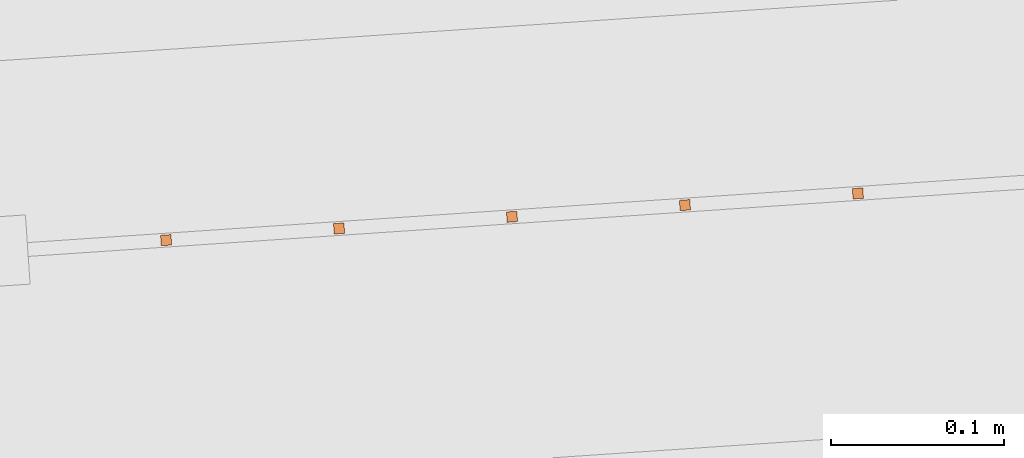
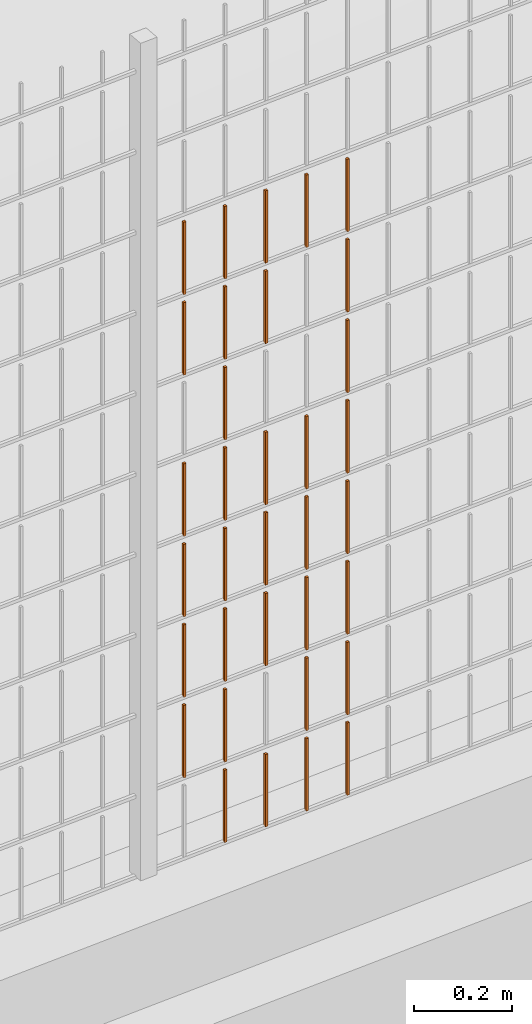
# One storey, part 216 of 1809: 34 proxies, 1 element without a shape of its own.
"""IFC2X3 building model written with IfcOpenShell, lengths in millimetres."""

from ifc_helpers import new_model, entity, si_unit, converted_unit, derived_unit, money_unit, direction, frame, origin_with_axes, place, context, subcontext, project, spatial, faceted_brep, source, transform, mapped, material, type_object, element, aggregate, save


model = new_model("IFC2X3")

# Units and contexts
model_context = context("Model", 3, precision=0.01, world=origin_with_axes(), true_north=direction((0.0, 1.0)))
body_context = subcontext(model_context, "Body", "Model", "MODEL_VIEW")
ifc_project = project(units=[si_unit("LENGTHUNIT", "METRE", prefix="MILLI"), si_unit("AREAUNIT", "SQUARE_METRE"), si_unit("VOLUMEUNIT", "CUBIC_METRE"), converted_unit("PLANEANGLEUNIT", "DEGREE", entity("IfcPlaneAngleMeasure", 0.0174532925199), si_unit("PLANEANGLEUNIT", "RADIAN"), dimensions=[0, 0, 0, 0, 0, 0, 0]), si_unit("SOLIDANGLEUNIT", "STERADIAN"), money_unit("EUR"), converted_unit("TIMEUNIT", "Year", entity("IfcTimeMeasure", 31556926.0), si_unit("TIMEUNIT", "SECOND"), dimensions=[0, 0, 1, 0, 0, 0, 0]), si_unit("MASSUNIT", "GRAM", prefix="KILO"), si_unit("THERMODYNAMICTEMPERATUREUNIT", "DEGREE_CELSIUS"), si_unit("LUMINOUSINTENSITYUNIT", "LUMEN"), si_unit("ENERGYUNIT", "JOULE", prefix="MEGA"), derived_unit("THERMALCONDUCTANCEUNIT", [(si_unit("POWERUNIT", "WATT"), 1), (si_unit("LENGTHUNIT", "METRE"), -1), (si_unit("THERMODYNAMICTEMPERATUREUNIT", "KELVIN"), -1)]), derived_unit("SPECIFICHEATCAPACITYUNIT", [(si_unit("ENERGYUNIT", "JOULE"), 1), (si_unit("MASSUNIT", "GRAM", prefix="KILO"), -1), (si_unit("THERMODYNAMICTEMPERATUREUNIT", "KELVIN"), -1)]), derived_unit("MASSDENSITYUNIT", [(si_unit("MASSUNIT", "GRAM", prefix="KILO"), 1), (si_unit("VOLUMEUNIT", "CUBIC_METRE"), -1)])], contexts=[model_context])

# Site, building, storey
site_placement = place(None, origin_with_axes())
site = spatial("IfcSite", under=ifc_project, at=site_placement, Name="Politse- ja Piirivalveameti ning Päästeameti ühishoone", CompositionType="ELEMENT")
building_placement = place(site_placement, origin_with_axes())
building = spatial("IfcBuilding", under=site, at=building_placement, Name="Politse- ja Piirivalveameti ning Päästeameti ühishoone", CompositionType="ELEMENT")
storey_placement = place(building_placement, origin_with_axes())
storey = spatial("IfcBuildingStorey", under=building, at=storey_placement, Name="Esimene korrus", CompositionType="ELEMENT", Elevation=0.0)

# Proxies
building_element_proxy_type_1 = type_object("IfcBuildingElementProxyType", Name="Railing Type", PredefinedType="NOTDEFINED")
proxy_1_placement = place(storey_placement, frame((89252.001212, -29183.4766571, 203.661247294), z_axis=(0.0, 0.0, 1.0), x_axis=(1.0, 0.0, 0.0)))
proxy_1 = element("IfcBuildingElementProxy", 1, at=proxy_1_placement, inside=storey, type_object=building_element_proxy_type_1, Name="PIIRDEAED")
ifc_material = material(Name="ET-03_Raud")
building_element_proxy_type_2 = type_object("IfcBuildingElementProxyType", Name="IfcBuildingElementProxy", PredefinedType="NOTDEFINED")
shared_shape_1 = source(origin_with_axes(), body_context, "Body", "Brep", [
    faceted_brep([(3.0, 3.0, -0.000752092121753), (-3.0, 3.0, -0.000752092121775), (-3.0, 3.0, 179.99926046), (3.0, 3.0, 179.99926046), (3.0, -3.0, 0.000752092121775), (-3.0, -3.0, 0.000752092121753), (-3.0, -3.0, 180.000764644), (3.0, -3.0, 180.000764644)], [[[0, 1, 2, 3]], [[0, 4, 5, 1]], [[1, 5, 6, 2]], [[3, 2, 6, 7]], [[4, 0, 3, 7]], [[5, 4, 7, 6]]]),
])
proxy_2_placement = place(proxy_1_placement, frame((-59391.3558441, -21309.436714, 612.311201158), z_axis=(0.0, 0.0, 1.0), x_axis=(1.0, 0.0, 0.0)))
proxy_2 = element("IfcBuildingElementProxy", 2, at=proxy_2_placement, type_object=building_element_proxy_type_2, material=ifc_material, Name="BALUSTER - 001", context=body_context, shape_type="MappedRepresentation", body=[
    mapped(shared_shape_1, transform((0.0, 0.0, 0.0), x_axis=(-0.0673926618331, 0.997726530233, 0.0), y_axis=(-0.997726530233, -0.0673926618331, 0.0), z_axis=(0.0, 0.0, 1.0))),
])
shared_shape_2 = source(origin_with_axes(), body_context, "Body", "Brep", [
    faceted_brep([(3.0, 3.0, -0.000752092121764), (-3.0, 3.0, -0.000752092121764), (-3.0, 3.0, 179.99926046), (3.0, 3.0, 179.99926046), (3.0, -3.0, 0.000752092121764), (-3.0, -3.0, 0.000752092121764), (-3.0, -3.0, 180.000764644), (3.0, -3.0, 180.000764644)], [[[0, 1, 2, 3]], [[0, 4, 5, 1]], [[1, 5, 6, 2]], [[3, 2, 6, 7]], [[4, 0, 3, 7]], [[5, 4, 7, 6]]]),
])
proxy_3_placement = place(proxy_1_placement, frame((-59491.1284971, -21316.1759802, 12.2861314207), z_axis=(0.0, 0.0, 1.0), x_axis=(1.0, 0.0, 0.0)))
proxy_3 = element("IfcBuildingElementProxy", 3, at=proxy_3_placement, type_object=building_element_proxy_type_2, material=ifc_material, Name="BALUSTER - 001", context=body_context, shape_type="MappedRepresentation", body=[
    mapped(shared_shape_2, transform((0.0, 0.0, 0.0), x_axis=(-0.0673926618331, 0.997726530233, 0.0), y_axis=(-0.997726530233, -0.0673926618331, 0.0), z_axis=(0.0, 0.0, 1.0))),
])
shared_shape_3 = source(origin_with_axes(), body_context, "Body", "Brep", [
    faceted_brep([(3.0, 3.0, -0.000752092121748), (-3.0, 3.0, -0.00075209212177), (-3.0, 3.0, 179.99926046), (3.0, 3.0, 179.99926046), (3.0, -3.0, 0.00075209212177), (-3.0, -3.0, 0.000752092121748), (-3.0, -3.0, 180.000764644), (3.0, -3.0, 180.000764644)], [[[0, 1, 2, 3]], [[0, 4, 5, 1]], [[1, 5, 6, 2]], [[3, 2, 6, 7]], [[4, 0, 3, 7]], [[5, 4, 7, 6]]]),
])
proxy_4_placement = place(proxy_1_placement, frame((-59191.810538, -21295.9581816, 12.3613406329), z_axis=(0.0, 0.0, 1.0), x_axis=(1.0, 0.0, 0.0)))
proxy_4 = element("IfcBuildingElementProxy", 4, at=proxy_4_placement, type_object=building_element_proxy_type_2, material=ifc_material, Name="BALUSTER - 001", context=body_context, shape_type="MappedRepresentation", body=[
    mapped(shared_shape_3, transform((0.0, 0.0, 0.0), x_axis=(-0.0673926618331, 0.997726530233, 0.0), y_axis=(-0.997726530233, -0.0673926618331, 0.0), z_axis=(0.0, 0.0, 1.0))),
])
shared_shape_4 = source(origin_with_axes(), body_context, "Body", "Brep", [
    faceted_brep([(3.0, 3.0, -0.000752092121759), (-3.0, 3.0, -0.000752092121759), (-3.0, 3.0, 179.99926046), (3.0, 3.0, 179.99926046), (3.0, -3.0, 0.000752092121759), (-3.0, -3.0, 0.000752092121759), (-3.0, -3.0, 180.000764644), (3.0, -3.0, 180.000764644)], [[[0, 1, 2, 3]], [[0, 4, 5, 1]], [[1, 5, 6, 2]], [[3, 2, 6, 7]], [[4, 0, 3, 7]], [[5, 4, 7, 6]]]),
])
proxy_5_placement = place(proxy_1_placement, frame((-59291.583191, -21302.6974478, 12.3362708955), z_axis=(0.0, 0.0, 1.0), x_axis=(1.0, 0.0, 0.0)))
proxy_5 = element("IfcBuildingElementProxy", 5, at=proxy_5_placement, type_object=building_element_proxy_type_2, material=ifc_material, Name="BALUSTER - 001", context=body_context, shape_type="MappedRepresentation", body=[
    mapped(shared_shape_4, transform((0.0, 0.0, 0.0), x_axis=(-0.0673926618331, 0.997726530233, 0.0), y_axis=(-0.997726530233, -0.0673926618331, 0.0), z_axis=(0.0, 0.0, 1.0))),
])
proxy_6_placement = place(proxy_1_placement, frame((-59291.583191, -21302.6974478, 212.336270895), z_axis=(0.0, 0.0, 1.0), x_axis=(1.0, 0.0, 0.0)))
proxy_6 = element("IfcBuildingElementProxy", 6, at=proxy_6_placement, type_object=building_element_proxy_type_2, material=ifc_material, Name="BALUSTER - 001", context=body_context, shape_type="MappedRepresentation", body=[
    mapped(shared_shape_4, transform((0.0, 0.0, 0.0), x_axis=(-0.0673926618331, 0.997726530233, 0.0), y_axis=(-0.997726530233, -0.0673926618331, 0.0), z_axis=(0.0, 0.0, 1.0))),
])
shared_shape_5 = source(origin_with_axes(), body_context, "Body", "Brep", [
    faceted_brep([(3.0, 3.0, -0.000752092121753), (-3.0, 3.0, -0.000752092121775), (-3.0, 3.0, 179.99926046), (3.0, 3.0, 179.99926046), (3.0, -3.0, 0.000752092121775), (-3.0, -3.0, 0.000752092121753), (-3.0, -3.0, 180.000764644), (3.0, -3.0, 180.000764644)], [[[0, 1, 2, 3]], [[0, 4, 5, 1]], [[1, 5, 6, 2]], [[3, 2, 6, 7]], [[4, 0, 3, 7]], [[5, 4, 7, 6]]]),
])
proxy_7_placement = place(proxy_1_placement, frame((-59391.3558441, -21309.436714, 12.3112011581), z_axis=(0.0, 0.0, 1.0), x_axis=(1.0, 0.0, 0.0)))
proxy_7 = element("IfcBuildingElementProxy", 7, at=proxy_7_placement, type_object=building_element_proxy_type_2, material=ifc_material, Name="BALUSTER - 001", context=body_context, shape_type="MappedRepresentation", body=[
    mapped(shared_shape_5, transform((0.0, 0.0, 0.0), x_axis=(-0.0673926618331, 0.997726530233, 0.0), y_axis=(-0.997726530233, -0.0673926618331, 0.0), z_axis=(0.0, 0.0, 1.0))),
])
shared_shape_6 = source(origin_with_axes(), body_context, "Body", "Brep", [
    faceted_brep([(3.0, 3.0, -0.000752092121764), (-3.0, 3.0, -0.000752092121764), (-3.0, 3.0, 179.99926046), (3.0, 3.0, 179.99926046), (3.0, -3.0, 0.000752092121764), (-3.0, -3.0, 0.000752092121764), (-3.0, -3.0, 180.000764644), (3.0, -3.0, 180.000764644)], [[[0, 1, 2, 3]], [[0, 4, 5, 1]], [[1, 5, 6, 2]], [[3, 2, 6, 7]], [[4, 0, 3, 7]], [[5, 4, 7, 6]]]),
])
proxy_8_placement = place(proxy_1_placement, frame((-59491.1284971, -21316.1759802, 212.286131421), z_axis=(0.0, 0.0, 1.0), x_axis=(1.0, 0.0, 0.0)))
proxy_8 = element("IfcBuildingElementProxy", 8, at=proxy_8_placement, type_object=building_element_proxy_type_2, material=ifc_material, Name="BALUSTER - 001", context=body_context, shape_type="MappedRepresentation", body=[
    mapped(shared_shape_6, transform((0.0, 0.0, 0.0), x_axis=(-0.0673926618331, 0.997726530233, 0.0), y_axis=(-0.997726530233, -0.0673926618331, 0.0), z_axis=(0.0, 0.0, 1.0))),
])
proxy_9_placement = place(proxy_1_placement, frame((-59491.1284971, -21316.1759802, 412.286131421), z_axis=(0.0, 0.0, 1.0), x_axis=(1.0, 0.0, 0.0)))
proxy_9 = element("IfcBuildingElementProxy", 9, at=proxy_9_placement, type_object=building_element_proxy_type_2, material=ifc_material, Name="BALUSTER - 001", context=body_context, shape_type="MappedRepresentation", body=[
    mapped(shared_shape_6, transform((0.0, 0.0, 0.0), x_axis=(-0.0673926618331, 0.997726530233, 0.0), y_axis=(-0.997726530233, -0.0673926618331, 0.0), z_axis=(0.0, 0.0, 1.0))),
])
shared_shape_7 = source(origin_with_axes(), body_context, "Body", "Brep", [
    faceted_brep([(3.0, 3.0, -0.000752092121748), (-3.0, 3.0, -0.00075209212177), (-3.0, 3.0, 179.99926046), (3.0, 3.0, 179.99926046), (3.0, -3.0, 0.00075209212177), (-3.0, -3.0, 0.000752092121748), (-3.0, -3.0, 180.000764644), (3.0, -3.0, 180.000764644)], [[[0, 1, 2, 3]], [[0, 4, 5, 1]], [[1, 5, 6, 2]], [[3, 2, 6, 7]], [[4, 0, 3, 7]], [[5, 4, 7, 6]]]),
])
proxy_10_placement = place(proxy_1_placement, frame((-59191.810538, -21295.9581816, 212.361340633), z_axis=(0.0, 0.0, 1.0), x_axis=(1.0, 0.0, 0.0)))
proxy_10 = element("IfcBuildingElementProxy", 10, at=proxy_10_placement, type_object=building_element_proxy_type_2, material=ifc_material, Name="BALUSTER - 001", context=body_context, shape_type="MappedRepresentation", body=[
    mapped(shared_shape_7, transform((0.0, 0.0, 0.0), x_axis=(-0.0673926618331, 0.997726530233, 0.0), y_axis=(-0.997726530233, -0.0673926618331, 0.0), z_axis=(0.0, 0.0, 1.0))),
])
shared_shape_8 = source(origin_with_axes(), body_context, "Body", "Brep", [
    faceted_brep([(3.0, 3.0, -0.000752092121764), (-3.0, 3.0, -0.000752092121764), (-3.0, 3.0, 179.99926046), (3.0, 3.0, 179.99926046), (3.0, -3.0, 0.000752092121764), (-3.0, -3.0, 0.000752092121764), (-3.0, -3.0, 180.000764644), (3.0, -3.0, 180.000764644)], [[[0, 1, 2, 3]], [[0, 4, 5, 1]], [[1, 5, 6, 2]], [[3, 2, 6, 7]], [[4, 0, 3, 7]], [[5, 4, 7, 6]]]),
])
proxy_11_placement = place(proxy_1_placement, frame((-59590.9011501, -21322.9152463, 212.261061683), z_axis=(0.0, 0.0, 1.0), x_axis=(1.0, 0.0, 0.0)))
proxy_11 = element("IfcBuildingElementProxy", 11, at=proxy_11_placement, type_object=building_element_proxy_type_2, material=ifc_material, Name="BALUSTER - 001", context=body_context, shape_type="MappedRepresentation", body=[
    mapped(shared_shape_8, transform((0.0, 0.0, 0.0), x_axis=(-0.0673926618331, 0.997726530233, 0.0), y_axis=(-0.997726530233, -0.0673926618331, 0.0), z_axis=(0.0, 0.0, 1.0))),
])
proxy_12_placement = place(proxy_1_placement, frame((-59590.9011501, -21322.9152463, 612.261061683), z_axis=(0.0, 0.0, 1.0), x_axis=(1.0, 0.0, 0.0)))
proxy_12 = element("IfcBuildingElementProxy", 12, at=proxy_12_placement, type_object=building_element_proxy_type_2, material=ifc_material, Name="BALUSTER - 001", context=body_context, shape_type="MappedRepresentation", body=[
    mapped(shared_shape_8, transform((0.0, 0.0, 0.0), x_axis=(-0.0673926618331, 0.997726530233, 0.0), y_axis=(-0.997726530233, -0.0673926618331, 0.0), z_axis=(0.0, 0.0, 1.0))),
])
shared_shape_9 = source(origin_with_axes(), body_context, "Body", "Brep", [
    faceted_brep([(3.0, 3.0, -0.000752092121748), (-3.0, 3.0, -0.00075209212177), (-3.0, 3.0, 179.99926046), (3.0, 3.0, 179.99926046), (3.0, -3.0, 0.00075209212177), (-3.0, -3.0, 0.000752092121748), (-3.0, -3.0, 180.000764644), (3.0, -3.0, 180.000764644)], [[[0, 1, 2, 3]], [[0, 4, 5, 1]], [[1, 5, 6, 2]], [[3, 2, 6, 7]], [[4, 0, 3, 7]], [[5, 4, 7, 6]]]),
])
proxy_13_placement = place(proxy_1_placement, frame((-59191.810538, -21295.9581816, 412.361340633), z_axis=(0.0, 0.0, 1.0), x_axis=(1.0, 0.0, 0.0)))
proxy_13 = element("IfcBuildingElementProxy", 13, at=proxy_13_placement, type_object=building_element_proxy_type_2, material=ifc_material, Name="BALUSTER - 001", context=body_context, shape_type="MappedRepresentation", body=[
    mapped(shared_shape_9, transform((0.0, 0.0, 0.0), x_axis=(-0.0673926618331, 0.997726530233, 0.0), y_axis=(-0.997726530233, -0.0673926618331, 0.0), z_axis=(0.0, 0.0, 1.0))),
])
proxy_14_placement = place(proxy_1_placement, frame((-59191.810538, -21295.9581816, 612.361340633), z_axis=(0.0, 0.0, 1.0), x_axis=(1.0, 0.0, 0.0)))
proxy_14 = element("IfcBuildingElementProxy", 14, at=proxy_14_placement, type_object=building_element_proxy_type_2, material=ifc_material, Name="BALUSTER - 001", context=body_context, shape_type="MappedRepresentation", body=[
    mapped(shared_shape_9, transform((0.0, 0.0, 0.0), x_axis=(-0.0673926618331, 0.997726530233, 0.0), y_axis=(-0.997726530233, -0.0673926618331, 0.0), z_axis=(0.0, 0.0, 1.0))),
])
shared_shape_10 = source(origin_with_axes(), body_context, "Body", "Brep", [
    faceted_brep([(3.0, 3.0, -0.000752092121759), (-3.0, 3.0, -0.000752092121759), (-3.0, 3.0, 179.99926046), (3.0, 3.0, 179.99926046), (3.0, -3.0, 0.000752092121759), (-3.0, -3.0, 0.000752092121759), (-3.0, -3.0, 180.000764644), (3.0, -3.0, 180.000764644)], [[[0, 1, 2, 3]], [[0, 4, 5, 1]], [[1, 5, 6, 2]], [[3, 2, 6, 7]], [[4, 0, 3, 7]], [[5, 4, 7, 6]]]),
])
proxy_15_placement = place(proxy_1_placement, frame((-59291.583191, -21302.6974478, 412.336270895), z_axis=(0.0, 0.0, 1.0), x_axis=(1.0, 0.0, 0.0)))
proxy_15 = element("IfcBuildingElementProxy", 15, at=proxy_15_placement, type_object=building_element_proxy_type_2, material=ifc_material, Name="BALUSTER - 001", context=body_context, shape_type="MappedRepresentation", body=[
    mapped(shared_shape_10, transform((0.0, 0.0, 0.0), x_axis=(-0.0673926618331, 0.997726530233, 0.0), y_axis=(-0.997726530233, -0.0673926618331, 0.0), z_axis=(0.0, 0.0, 1.0))),
])
shared_shape_11 = source(origin_with_axes(), body_context, "Body", "Brep", [
    faceted_brep([(3.0, 3.0, -0.000752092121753), (-3.0, 3.0, -0.000752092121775), (-3.0, 3.0, 179.99926046), (3.0, 3.0, 179.99926046), (3.0, -3.0, 0.000752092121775), (-3.0, -3.0, 0.000752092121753), (-3.0, -3.0, 180.000764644), (3.0, -3.0, 180.000764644)], [[[0, 1, 2, 3]], [[0, 4, 5, 1]], [[1, 5, 6, 2]], [[3, 2, 6, 7]], [[4, 0, 3, 7]], [[5, 4, 7, 6]]]),
])
proxy_16_placement = place(proxy_1_placement, frame((-59391.3558441, -21309.436714, 412.311201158), z_axis=(0.0, 0.0, 1.0), x_axis=(1.0, 0.0, 0.0)))
proxy_16 = element("IfcBuildingElementProxy", 16, at=proxy_16_placement, type_object=building_element_proxy_type_2, material=ifc_material, Name="BALUSTER - 001", context=body_context, shape_type="MappedRepresentation", body=[
    mapped(shared_shape_11, transform((0.0, 0.0, 0.0), x_axis=(-0.0673926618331, 0.997726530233, 0.0), y_axis=(-0.997726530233, -0.0673926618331, 0.0), z_axis=(0.0, 0.0, 1.0))),
])
shared_shape_12 = source(origin_with_axes(), body_context, "Body", "Brep", [
    faceted_brep([(3.0, 3.0, -0.000752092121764), (-3.0, 3.0, -0.000752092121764), (-3.0, 3.0, 179.99926046), (3.0, 3.0, 179.99926046), (3.0, -3.0, 0.000752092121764), (-3.0, -3.0, 0.000752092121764), (-3.0, -3.0, 180.000764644), (3.0, -3.0, 180.000764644)], [[[0, 1, 2, 3]], [[0, 4, 5, 1]], [[1, 5, 6, 2]], [[3, 2, 6, 7]], [[4, 0, 3, 7]], [[5, 4, 7, 6]]]),
])
proxy_17_placement = place(proxy_1_placement, frame((-59590.9011501, -21322.9152463, 412.261061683), z_axis=(0.0, 0.0, 1.0), x_axis=(1.0, 0.0, 0.0)))
proxy_17 = element("IfcBuildingElementProxy", 17, at=proxy_17_placement, type_object=building_element_proxy_type_2, material=ifc_material, Name="BALUSTER - 001", context=body_context, shape_type="MappedRepresentation", body=[
    mapped(shared_shape_12, transform((0.0, 0.0, 0.0), x_axis=(-0.0673926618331, 0.997726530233, 0.0), y_axis=(-0.997726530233, -0.0673926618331, 0.0), z_axis=(0.0, 0.0, 1.0))),
])
shared_shape_13 = source(origin_with_axes(), body_context, "Body", "Brep", [
    faceted_brep([(3.0, 3.0, -0.000752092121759), (-3.0, 3.0, -0.000752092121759), (-3.0, 3.0, 179.99926046), (3.0, 3.0, 179.99926046), (3.0, -3.0, 0.000752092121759), (-3.0, -3.0, 0.000752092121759), (-3.0, -3.0, 180.000764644), (3.0, -3.0, 180.000764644)], [[[0, 1, 2, 3]], [[0, 4, 5, 1]], [[1, 5, 6, 2]], [[3, 2, 6, 7]], [[4, 0, 3, 7]], [[5, 4, 7, 6]]]),
])
proxy_18_placement = place(proxy_1_placement, frame((-59391.3558441, -21309.436714, 1212.31120116), z_axis=(0.0, 0.0, 1.0), x_axis=(1.0, 0.0, 0.0)))
proxy_18 = element("IfcBuildingElementProxy", 18, at=proxy_18_placement, type_object=building_element_proxy_type_2, material=ifc_material, Name="BALUSTER - 001", context=body_context, shape_type="MappedRepresentation", body=[
    mapped(shared_shape_13, transform((0.0, 0.0, 0.0), x_axis=(-0.0673926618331, 0.997726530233, 0.0), y_axis=(-0.997726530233, -0.0673926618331, 0.0), z_axis=(0.0, 0.0, 1.0))),
])
shared_shape_14 = source(origin_with_axes(), body_context, "Body", "Brep", [
    faceted_brep([(3.0, 3.0, -0.000752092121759), (-3.0, 3.0, -0.000752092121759), (-3.0, 3.0, 179.99926046), (3.0, 3.0, 179.99926046), (3.0, -3.0, 0.000752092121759), (-3.0, -3.0, 0.000752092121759), (-3.0, -3.0, 180.000764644), (3.0, -3.0, 180.000764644)], [[[0, 1, 2, 3]], [[0, 4, 5, 1]], [[1, 5, 6, 2]], [[3, 2, 6, 7]], [[4, 0, 3, 7]], [[5, 4, 7, 6]]]),
])
proxy_19_placement = place(proxy_1_placement, frame((-59291.583191, -21302.6974478, 612.336270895), z_axis=(0.0, 0.0, 1.0), x_axis=(1.0, 0.0, 0.0)))
proxy_19 = element("IfcBuildingElementProxy", 19, at=proxy_19_placement, type_object=building_element_proxy_type_2, material=ifc_material, Name="BALUSTER - 001", context=body_context, shape_type="MappedRepresentation", body=[
    mapped(shared_shape_14, transform((0.0, 0.0, 0.0), x_axis=(-0.0673926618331, 0.997726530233, 0.0), y_axis=(-0.997726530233, -0.0673926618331, 0.0), z_axis=(0.0, 0.0, 1.0))),
])
shared_shape_15 = source(origin_with_axes(), body_context, "Body", "Brep", [
    faceted_brep([(3.0, 3.0, -0.000752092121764), (-3.0, 3.0, -0.000752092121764), (-3.0, 3.0, 179.99926046), (3.0, 3.0, 179.99926046), (3.0, -3.0, 0.000752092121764), (-3.0, -3.0, 0.000752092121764), (-3.0, -3.0, 180.000764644), (3.0, -3.0, 180.000764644)], [[[0, 1, 2, 3]], [[0, 4, 5, 1]], [[1, 5, 6, 2]], [[3, 2, 6, 7]], [[4, 0, 3, 7]], [[5, 4, 7, 6]]]),
])
proxy_20_placement = place(proxy_1_placement, frame((-59491.1284971, -21316.1759802, 612.286131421), z_axis=(0.0, 0.0, 1.0), x_axis=(1.0, 0.0, 0.0)))
proxy_20 = element("IfcBuildingElementProxy", 20, at=proxy_20_placement, type_object=building_element_proxy_type_2, material=ifc_material, Name="BALUSTER - 001", context=body_context, shape_type="MappedRepresentation", body=[
    mapped(shared_shape_15, transform((0.0, 0.0, 0.0), x_axis=(-0.0673926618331, 0.997726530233, 0.0), y_axis=(-0.997726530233, -0.0673926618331, 0.0), z_axis=(0.0, 0.0, 1.0))),
])
proxy_21_placement = place(proxy_1_placement, frame((-59491.1284971, -21316.1759802, 812.286131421), z_axis=(0.0, 0.0, 1.0), x_axis=(1.0, 0.0, 0.0)))
proxy_21 = element("IfcBuildingElementProxy", 21, at=proxy_21_placement, type_object=building_element_proxy_type_2, material=ifc_material, Name="BALUSTER - 001", context=body_context, shape_type="MappedRepresentation", body=[
    mapped(shared_shape_15, transform((0.0, 0.0, 0.0), x_axis=(-0.0673926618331, 0.997726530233, 0.0), y_axis=(-0.997726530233, -0.0673926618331, 0.0), z_axis=(0.0, 0.0, 1.0))),
])
proxy_22_placement = place(proxy_1_placement, frame((-59491.1284971, -21316.1759802, 1212.28613142), z_axis=(0.0, 0.0, 1.0), x_axis=(1.0, 0.0, 0.0)))
proxy_22 = element("IfcBuildingElementProxy", 22, at=proxy_22_placement, type_object=building_element_proxy_type_2, material=ifc_material, Name="BALUSTER - 001", context=body_context, shape_type="MappedRepresentation", body=[
    mapped(shared_shape_15, transform((0.0, 0.0, 0.0), x_axis=(-0.0673926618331, 0.997726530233, 0.0), y_axis=(-0.997726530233, -0.0673926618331, 0.0), z_axis=(0.0, 0.0, 1.0))),
])
shared_shape_16 = source(origin_with_axes(), body_context, "Body", "Brep", [
    faceted_brep([(3.0, 3.0, -0.000752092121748), (-3.0, 3.0, -0.00075209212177), (-3.0, 3.0, 179.99926046), (3.0, 3.0, 179.99926046), (3.0, -3.0, 0.00075209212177), (-3.0, -3.0, 0.000752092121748), (-3.0, -3.0, 180.000764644), (3.0, -3.0, 180.000764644)], [[[0, 1, 2, 3]], [[0, 4, 5, 1]], [[1, 5, 6, 2]], [[3, 2, 6, 7]], [[4, 0, 3, 7]], [[5, 4, 7, 6]]]),
])
proxy_23_placement = place(proxy_1_placement, frame((-59191.810538, -21295.9581816, 812.361340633), z_axis=(0.0, 0.0, 1.0), x_axis=(1.0, 0.0, 0.0)))
proxy_23 = element("IfcBuildingElementProxy", 23, at=proxy_23_placement, type_object=building_element_proxy_type_2, material=ifc_material, Name="BALUSTER - 001", context=body_context, shape_type="MappedRepresentation", body=[
    mapped(shared_shape_16, transform((0.0, 0.0, 0.0), x_axis=(-0.0673926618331, 0.997726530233, 0.0), y_axis=(-0.997726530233, -0.0673926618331, 0.0), z_axis=(0.0, 0.0, 1.0))),
])
proxy_24_placement = place(proxy_1_placement, frame((-59191.810538, -21295.9581816, 1212.36134063), z_axis=(0.0, 0.0, 1.0), x_axis=(1.0, 0.0, 0.0)))
proxy_24 = element("IfcBuildingElementProxy", 24, at=proxy_24_placement, type_object=building_element_proxy_type_2, material=ifc_material, Name="BALUSTER - 001", context=body_context, shape_type="MappedRepresentation", body=[
    mapped(shared_shape_16, transform((0.0, 0.0, 0.0), x_axis=(-0.0673926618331, 0.997726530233, 0.0), y_axis=(-0.997726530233, -0.0673926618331, 0.0), z_axis=(0.0, 0.0, 1.0))),
])
shared_shape_17 = source(origin_with_axes(), body_context, "Body", "Brep", [
    faceted_brep([(3.0, 3.0, -0.000752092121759), (-3.0, 3.0, -0.000752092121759), (-3.0, 3.0, 179.99926046), (3.0, 3.0, 179.99926046), (3.0, -3.0, 0.000752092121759), (-3.0, -3.0, 0.000752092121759), (-3.0, -3.0, 180.000764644), (3.0, -3.0, 180.000764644)], [[[0, 1, 2, 3]], [[0, 4, 5, 1]], [[1, 5, 6, 2]], [[3, 2, 6, 7]], [[4, 0, 3, 7]], [[5, 4, 7, 6]]]),
])
proxy_25_placement = place(proxy_1_placement, frame((-59291.583191, -21302.6974478, 812.336270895), z_axis=(0.0, 0.0, 1.0), x_axis=(1.0, 0.0, 0.0)))
proxy_25 = element("IfcBuildingElementProxy", 25, at=proxy_25_placement, type_object=building_element_proxy_type_2, material=ifc_material, Name="BALUSTER - 001", context=body_context, shape_type="MappedRepresentation", body=[
    mapped(shared_shape_17, transform((0.0, 0.0, 0.0), x_axis=(-0.0673926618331, 0.997726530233, 0.0), y_axis=(-0.997726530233, -0.0673926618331, 0.0), z_axis=(0.0, 0.0, 1.0))),
])
shared_shape_18 = source(origin_with_axes(), body_context, "Body", "Brep", [
    faceted_brep([(3.0, 3.0, -0.000752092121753), (-3.0, 3.0, -0.000752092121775), (-3.0, 3.0, 179.99926046), (3.0, 3.0, 179.99926046), (3.0, -3.0, 0.000752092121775), (-3.0, -3.0, 0.000752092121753), (-3.0, -3.0, 180.000764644), (3.0, -3.0, 180.000764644)], [[[0, 1, 2, 3]], [[0, 4, 5, 1]], [[1, 5, 6, 2]], [[3, 2, 6, 7]], [[4, 0, 3, 7]], [[5, 4, 7, 6]]]),
])
proxy_26_placement = place(proxy_1_placement, frame((-59391.3558441, -21309.436714, 812.311201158), z_axis=(0.0, 0.0, 1.0), x_axis=(1.0, 0.0, 0.0)))
proxy_26 = element("IfcBuildingElementProxy", 26, at=proxy_26_placement, type_object=building_element_proxy_type_2, material=ifc_material, Name="BALUSTER - 001", context=body_context, shape_type="MappedRepresentation", body=[
    mapped(shared_shape_18, transform((0.0, 0.0, 0.0), x_axis=(-0.0673926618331, 0.997726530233, 0.0), y_axis=(-0.997726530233, -0.0673926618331, 0.0), z_axis=(0.0, 0.0, 1.0))),
])
shared_shape_19 = source(origin_with_axes(), body_context, "Body", "Brep", [
    faceted_brep([(3.0, 3.0, -0.000752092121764), (-3.0, 3.0, -0.000752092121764), (-3.0, 3.0, 179.99926046), (3.0, 3.0, 179.99926046), (3.0, -3.0, 0.000752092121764), (-3.0, -3.0, 0.000752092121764), (-3.0, -3.0, 180.000764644), (3.0, -3.0, 180.000764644)], [[[0, 1, 2, 3]], [[0, 4, 5, 1]], [[1, 5, 6, 2]], [[3, 2, 6, 7]], [[4, 0, 3, 7]], [[5, 4, 7, 6]]]),
])
proxy_27_placement = place(proxy_1_placement, frame((-59590.9011501, -21322.9152463, 812.261061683), z_axis=(0.0, 0.0, 1.0), x_axis=(1.0, 0.0, 0.0)))
proxy_27 = element("IfcBuildingElementProxy", 27, at=proxy_27_placement, type_object=building_element_proxy_type_2, material=ifc_material, Name="BALUSTER - 001", context=body_context, shape_type="MappedRepresentation", body=[
    mapped(shared_shape_19, transform((0.0, 0.0, 0.0), x_axis=(-0.0673926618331, 0.997726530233, 0.0), y_axis=(-0.997726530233, -0.0673926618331, 0.0), z_axis=(0.0, 0.0, 1.0))),
])
shared_shape_20 = source(origin_with_axes(), body_context, "Body", "Brep", [
    faceted_brep([(3.0, 3.0, -0.000752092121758), (-3.0, 3.0, -0.000752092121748), (-3.00000000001, 2.99999999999, 179.99926046), (2.99999999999, 2.99999999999, 179.99926046), (3.0, -3.0, 0.000752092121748), (-3.0, -3.0, 0.000752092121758), (-3.00000000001, -3.00000000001, 180.000764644), (2.99999999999, -3.00000000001, 180.000764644)], [[[0, 1, 2, 3]], [[0, 4, 5, 1]], [[1, 5, 6, 2]], [[3, 2, 6, 7]], [[4, 0, 3, 7]], [[5, 4, 7, 6]]]),
])
proxy_28_placement = place(proxy_1_placement, frame((-59191.810538, -21295.9581816, 1012.36134063), z_axis=(0.0, 0.0, 1.0), x_axis=(1.0, 0.0, 0.0)))
proxy_28 = element("IfcBuildingElementProxy", 28, at=proxy_28_placement, type_object=building_element_proxy_type_2, material=ifc_material, Name="BALUSTER - 001", context=body_context, shape_type="MappedRepresentation", body=[
    mapped(shared_shape_20, transform((0.0, 0.0, 0.0), x_axis=(-0.0673926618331, 0.997726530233, 0.0), y_axis=(-0.997726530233, -0.0673926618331, 0.0), z_axis=(0.0, 0.0, 1.0))),
])
shared_shape_21 = source(origin_with_axes(), body_context, "Body", "Brep", [
    faceted_brep([(3.0, 3.0, -0.000752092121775), (-3.0, 3.0, -0.000752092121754), (-3.0, 3.0, 179.99926046), (3.0, 3.0, 179.99926046), (3.0, -3.0, 0.000752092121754), (-3.0, -3.0, 0.000752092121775), (-3.0, -3.0, 180.000764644), (3.0, -3.0, 180.000764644)], [[[0, 1, 2, 3]], [[0, 4, 5, 1]], [[1, 5, 6, 2]], [[3, 2, 6, 7]], [[4, 0, 3, 7]], [[5, 4, 7, 6]]]),
])
proxy_29_placement = place(proxy_1_placement, frame((-59590.9011501, -21322.9152463, 1412.26106168), z_axis=(0.0, 0.0, 1.0), x_axis=(1.0, 0.0, 0.0)))
proxy_29 = element("IfcBuildingElementProxy", 29, at=proxy_29_placement, type_object=building_element_proxy_type_2, material=ifc_material, Name="BALUSTER - 001", context=body_context, shape_type="MappedRepresentation", body=[
    mapped(shared_shape_21, transform((0.0, 0.0, 0.0), x_axis=(-0.0673926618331, 0.997726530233, 0.0), y_axis=(-0.997726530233, -0.0673926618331, 0.0), z_axis=(0.0, 0.0, 1.0))),
])
shared_shape_22 = source(origin_with_axes(), body_context, "Body", "Brep", [
    faceted_brep([(3.0, 3.0, -0.000752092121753), (-3.0, 3.0, -0.000752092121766), (-3.00000000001, 3.00000000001, 179.99926046), (2.99999999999, 3.00000000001, 179.99926046), (3.0, -3.0, 0.000752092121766), (-3.0, -3.0, 0.000752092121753), (-3.00000000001, -2.99999999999, 180.000764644), (2.99999999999, -2.99999999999, 180.000764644)], [[[0, 1, 2, 3]], [[0, 4, 5, 1]], [[1, 5, 6, 2]], [[3, 2, 6, 7]], [[4, 0, 3, 7]], [[5, 4, 7, 6]]]),
])
proxy_30_placement = place(proxy_1_placement, frame((-59491.1284971, -21316.1759802, 1012.28613142), z_axis=(0.0, 0.0, 1.0), x_axis=(1.0, 0.0, 0.0)))
proxy_30 = element("IfcBuildingElementProxy", 30, at=proxy_30_placement, type_object=building_element_proxy_type_2, material=ifc_material, Name="BALUSTER - 001", context=body_context, shape_type="MappedRepresentation", body=[
    mapped(shared_shape_22, transform((0.0, 0.0, 0.0), x_axis=(-0.0673926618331, 0.997726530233, 0.0), y_axis=(-0.997726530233, -0.0673926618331, 0.0), z_axis=(0.0, 0.0, 1.0))),
])
shared_shape_23 = source(origin_with_axes(), body_context, "Body", "Brep", [
    faceted_brep([(3.0, 3.0, -0.000752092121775), (-3.0, 3.0, -0.000752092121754), (-3.0, 3.0, 179.99926046), (3.0, 3.0, 179.99926046), (3.0, -3.0, 0.000752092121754), (-3.0, -3.0, 0.000752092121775), (-3.0, -3.0, 180.000764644), (3.0, -3.0, 180.000764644)], [[[0, 1, 2, 3]], [[0, 4, 5, 1]], [[1, 5, 6, 2]], [[3, 2, 6, 7]], [[4, 0, 3, 7]], [[5, 4, 7, 6]]]),
])
proxy_31_placement = place(proxy_1_placement, frame((-59590.9011501, -21322.9152463, 1212.26106168), z_axis=(0.0, 0.0, 1.0), x_axis=(1.0, 0.0, 0.0)))
proxy_31 = element("IfcBuildingElementProxy", 31, at=proxy_31_placement, type_object=building_element_proxy_type_2, material=ifc_material, Name="BALUSTER - 001", context=body_context, shape_type="MappedRepresentation", body=[
    mapped(shared_shape_23, transform((0.0, 0.0, 0.0), x_axis=(-0.0673926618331, 0.997726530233, 0.0), y_axis=(-0.997726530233, -0.0673926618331, 0.0), z_axis=(0.0, 0.0, 1.0))),
])
shared_shape_24 = source(origin_with_axes(), body_context, "Body", "Brep", [
    faceted_brep([(3.0, 3.0, -0.000752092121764), (-3.0, 3.0, -0.000752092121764), (-3.0, 3.0, 179.99926046), (3.0, 3.0, 179.99926046), (3.0, -3.0, 0.000752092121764), (-3.0, -3.0, 0.000752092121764), (-3.0, -3.0, 180.000764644), (3.0, -3.0, 180.000764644)], [[[0, 1, 2, 3]], [[0, 4, 5, 1]], [[1, 5, 6, 2]], [[3, 2, 6, 7]], [[4, 0, 3, 7]], [[5, 4, 7, 6]]]),
])
proxy_32_placement = place(proxy_1_placement, frame((-59491.1284971, -21316.1759802, 1412.28613142), z_axis=(0.0, 0.0, 1.0), x_axis=(1.0, 0.0, 0.0)))
proxy_32 = element("IfcBuildingElementProxy", 32, at=proxy_32_placement, type_object=building_element_proxy_type_2, material=ifc_material, Name="BALUSTER - 001", context=body_context, shape_type="MappedRepresentation", body=[
    mapped(shared_shape_24, transform((0.0, 0.0, 0.0), x_axis=(-0.0673926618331, 0.997726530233, 0.0), y_axis=(-0.997726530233, -0.0673926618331, 0.0), z_axis=(0.0, 0.0, 1.0))),
])
shared_shape_25 = source(origin_with_axes(), body_context, "Body", "Brep", [
    faceted_brep([(3.0, 3.0, -0.000752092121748), (-3.0, 3.0, -0.00075209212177), (-3.0, 3.0, 179.99926046), (3.0, 3.0, 179.99926046), (3.0, -3.0, 0.00075209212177), (-3.0, -3.0, 0.000752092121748), (-3.0, -3.0, 180.000764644), (3.0, -3.0, 180.000764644)], [[[0, 1, 2, 3]], [[0, 4, 5, 1]], [[1, 5, 6, 2]], [[3, 2, 6, 7]], [[4, 0, 3, 7]], [[5, 4, 7, 6]]]),
])
proxy_33_placement = place(proxy_1_placement, frame((-59191.810538, -21295.9581816, 1412.36134063), z_axis=(0.0, 0.0, 1.0), x_axis=(1.0, 0.0, 0.0)))
proxy_33 = element("IfcBuildingElementProxy", 33, at=proxy_33_placement, type_object=building_element_proxy_type_2, material=ifc_material, Name="BALUSTER - 001", context=body_context, shape_type="MappedRepresentation", body=[
    mapped(shared_shape_25, transform((0.0, 0.0, 0.0), x_axis=(-0.0673926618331, 0.997726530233, 0.0), y_axis=(-0.997726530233, -0.0673926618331, 0.0), z_axis=(0.0, 0.0, 1.0))),
])
shared_shape_26 = source(origin_with_axes(), body_context, "Body", "Brep", [
    faceted_brep([(3.0, 3.0, -0.000752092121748), (-3.0, 3.0, -0.00075209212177), (-3.0, 3.0, 179.99926046), (3.0, 3.0, 179.99926046), (3.0, -3.0, 0.00075209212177), (-3.0, -3.0, 0.000752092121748), (-3.0, -3.0, 180.000764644), (3.0, -3.0, 180.000764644)], [[[0, 1, 2, 3]], [[0, 4, 5, 1]], [[1, 5, 6, 2]], [[3, 2, 6, 7]], [[4, 0, 3, 7]], [[5, 4, 7, 6]]]),
])
proxy_34_placement = place(proxy_1_placement, frame((-59291.583191, -21302.6974478, 1412.3362709), z_axis=(0.0, 0.0, 1.0), x_axis=(1.0, 0.0, 0.0)))
proxy_34 = element("IfcBuildingElementProxy", 34, at=proxy_34_placement, type_object=building_element_proxy_type_2, material=ifc_material, Name="BALUSTER - 001", context=body_context, shape_type="MappedRepresentation", body=[
    mapped(shared_shape_26, transform((0.0, 0.0, 0.0), x_axis=(-0.0673926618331, 0.997726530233, 0.0), y_axis=(-0.997726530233, -0.0673926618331, 0.0), z_axis=(0.0, 0.0, 1.0))),
])
shared_shape_27 = source(origin_with_axes(), body_context, "Body", "Brep", [
    faceted_brep([(3.0, 3.0, -0.000752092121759), (-3.0, 3.0, -0.000752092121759), (-3.0, 3.0, 179.99926046), (3.0, 3.0, 179.99926046), (3.0, -3.0, 0.000752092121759), (-3.0, -3.0, 0.000752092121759), (-3.0, -3.0, 180.000764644), (3.0, -3.0, 180.000764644)], [[[0, 1, 2, 3]], [[0, 4, 5, 1]], [[1, 5, 6, 2]], [[3, 2, 6, 7]], [[4, 0, 3, 7]], [[5, 4, 7, 6]]]),
])
proxy_35_placement = place(proxy_1_placement, frame((-59391.3558441, -21309.436714, 1412.31120116), z_axis=(0.0, 0.0, 1.0), x_axis=(1.0, 0.0, 0.0)))
proxy_35 = element("IfcBuildingElementProxy", 35, at=proxy_35_placement, type_object=building_element_proxy_type_2, material=ifc_material, Name="BALUSTER - 001", context=body_context, shape_type="MappedRepresentation", body=[
    mapped(shared_shape_27, transform((0.0, 0.0, 0.0), x_axis=(-0.0673926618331, 0.997726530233, 0.0), y_axis=(-0.997726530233, -0.0673926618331, 0.0), z_axis=(0.0, 0.0, 1.0))),
])
aggregate(proxy_1, [proxy_4, proxy_5, proxy_7, proxy_3, proxy_10, proxy_6, proxy_8, proxy_11, proxy_13, proxy_15, proxy_16, proxy_9, proxy_17, proxy_14, proxy_19, proxy_2, proxy_20, proxy_12, proxy_23, proxy_25, proxy_26, proxy_21, proxy_27, proxy_28, proxy_30, proxy_24, proxy_18, proxy_22, proxy_31, proxy_33, proxy_34, proxy_35, proxy_32, proxy_29])

save(model, "model.ifc")
